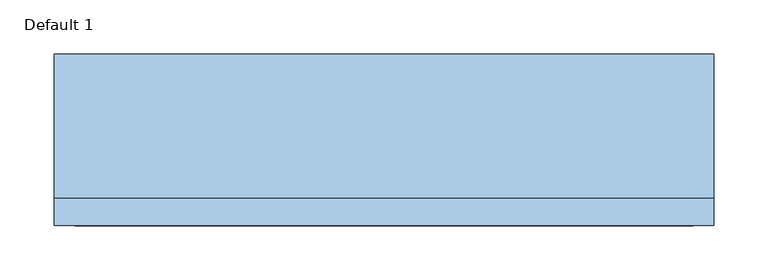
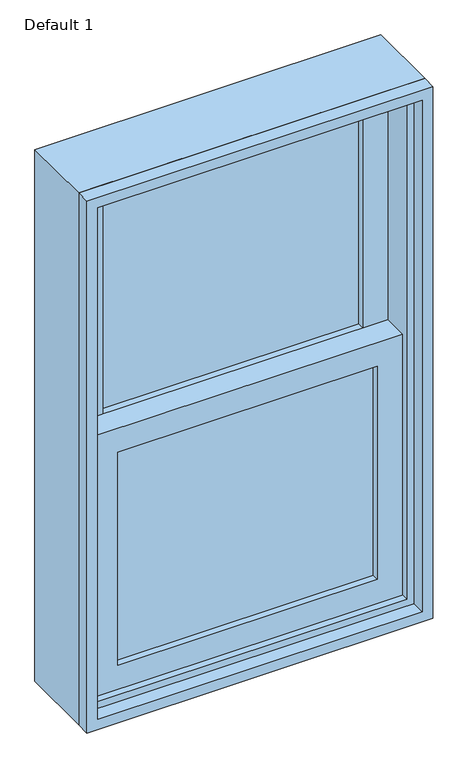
"""IFC4 building model written with IfcOpenShell, lengths in millimetres: window geometry, Planitar-Double-Hung-Single : Default 1."""

from ifc_helpers import new_model, si_unit, frame, origin, place, context, project, spatial, polyline, outline, extrude, source, transform, mapped, element, save


def default_1_9bc41475(model_context):
    return source(origin(), model_context, "Body", "SweptSolid", [
        extrude(outline(polyline([(228.6, 0.0), (228.6, -6.35), (-228.6, -6.35), (-228.6, 0.0), (228.6, 0.0)])), frame((0.0, 0.0, 990.6), z_axis=(0.0, 0.0, 1.0), x_axis=(1.0, 0.0, 0.0)), (0.0, 0.0, 1.0), 396.875),
        extrude(outline(polyline([(-228.6, -12.7), (228.6, -12.7), (228.6, -19.05), (-228.6, -19.05), (-228.6, -12.7)])), frame((0.0, 0.0, 990.6), z_axis=(0.0, 0.0, 1.0), x_axis=(1.0, 0.0, 0.0)), (0.0, 0.0, 1.0), 396.875),
        extrude(outline(polyline([(228.6, 44.45), (228.6, 38.1), (-228.6, 38.1), (-228.6, 44.45), (228.6, 44.45)])), frame((0.0, 0.0, 1431.925), z_axis=(0.0, 0.0, 1.0), x_axis=(1.0, 0.0, 0.0)), (0.0, 0.0, 1.0), 396.875),
        extrude(outline(polyline([(-228.6, 31.75), (228.6, 31.75), (228.6, 25.4), (-228.6, 25.4), (-228.6, 31.75)])), frame((0.0, 0.0, 1431.925), z_axis=(0.0, 0.0, 1.0), x_axis=(1.0, 0.0, 0.0)), (0.0, 0.0, 1.0), 396.875),
        extrude(outline(polyline([(1431.925, -273.05), (946.15, -273.05), (946.15, 273.05), (1431.925, 273.05), (1431.925, -273.05)]), holes=[polyline([(1387.475, 228.6), (990.6, 228.6), (990.6, -228.6), (1387.475, -228.6), (1387.475, 228.6)])]), frame((0.0, -31.75, 0.0), z_axis=(0.0, 1.0, 0.0), x_axis=(0.0, 0.0, 1.0)), (0.0, 0.0, 1.0), 44.45),
        extrude(outline(polyline([(1873.25, -273.05), (1387.475, -273.05), (1387.475, 273.05), (1873.25, 273.05), (1873.25, -273.05)]), holes=[polyline([(1828.8, 228.6), (1431.925, 228.6), (1431.925, -228.6), (1828.8, -228.6), (1828.8, 228.6)])]), frame((0.0, 12.7, 0.0), z_axis=(0.0, 1.0, 0.0), x_axis=(0.0, 0.0, 1.0)), (0.0, 0.0, 1.0), 44.45),
        extrude(outline(polyline([(1905.0, -304.8), (914.4, -304.8), (914.4, 304.8), (1905.0, 304.8), (1905.0, -304.8)]), holes=[polyline([(1873.25, 273.05), (946.15, 273.05), (946.15, -273.05), (1873.25, -273.05), (1873.25, 273.05)])]), frame((0.0, -44.45, 0.0), z_axis=(0.0, 1.0, 0.0), x_axis=(0.0, 0.0, 1.0)), (0.0, 0.0, 1.0), 133.35),
        extrude(outline(polyline([(1905.0, 304.8), (1905.0, -304.8), (914.4, -304.8), (914.4, 304.8), (1905.0, 304.8)]), holes=[polyline([(1885.95, 285.75), (933.45, 285.75), (933.45, -285.75), (1885.95, -285.75), (1885.95, 285.75)])]), frame((0.0, -69.85, 0.0), z_axis=(0.0, 1.0, 0.0), x_axis=(0.0, 0.0, 1.0)), (0.0, 0.0, 1.0), 25.4),
    ])


if __name__ == "__main__":
    model = new_model("IFC4")
    model_context = context("Model", 3, world=origin())
    ifc_project = project(units=[si_unit("LENGTHUNIT", "METRE", prefix="MILLI")], contexts=[model_context])
    site = spatial("IfcSite", under=ifc_project)
    building = spatial("IfcBuilding", under=site)
    placement = place(None, origin())
    default_1_shape = default_1_9bc41475(model_context)
    element("IfcWindow", 1, ObjectType="Planitar-Double-Hung-Single : Default 1", at=placement, inside=building, context=model_context, shape_type="MappedRepresentation", body=[
        mapped(default_1_shape, transform((0.0, 0.0, 0.0), x_axis=(1.0, 0.0, 0.0), y_axis=(0.0, 1.0, 0.0), z_axis=(0.0, 0.0, 1.0))),
    ])
    save(model, "model.ifc")
